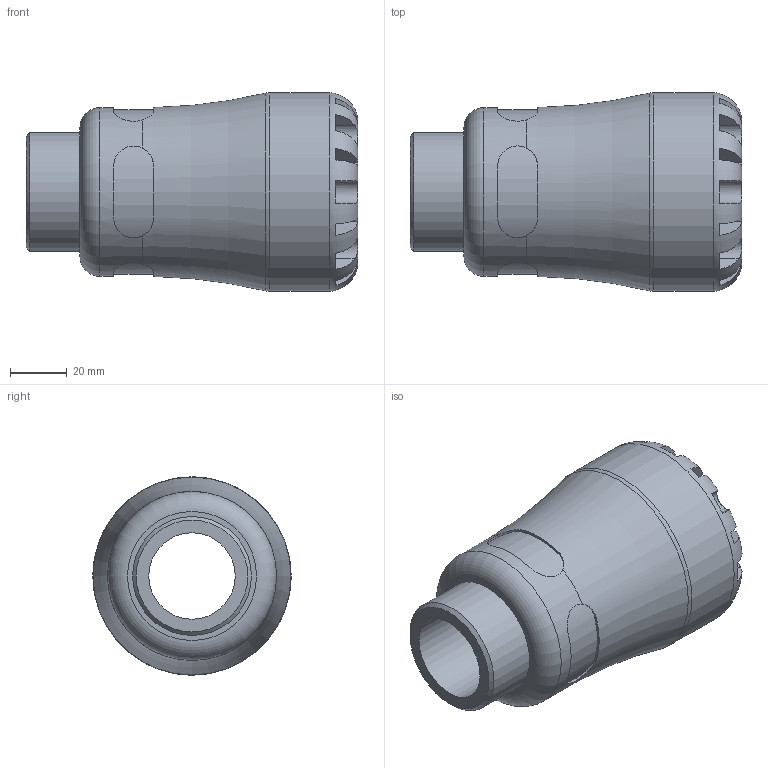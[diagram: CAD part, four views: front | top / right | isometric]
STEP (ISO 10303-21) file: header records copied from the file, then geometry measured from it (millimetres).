
FILE_DESCRIPTION(/* description */ ('PLASSON G-PLASS BRASS MALE ADAPTOR 40X 1 1/4" SERIES 1'),/* implementation_level */ '2;1');
FILE_NAME(/* name */ 'C:\Users\Kirill\Dropbox\99-16-3568-Processing\S1\157200\stp\157200040013.stp',/* time_stamp */ '2023-10-21T23:02:38+04:00',/* author */ ('KIM'),/* organization */ (''),/* preprocessor_version */ 'ST-DEVELOPER v17.2',/* originating_system */ 'Autodesk Inventor 2019',/* authorisation */ '');
FILE_SCHEMA (('AUTOMOTIVE_DESIGN { 1 0 10303 214 3 1 1 }'));
Length unit declared in the file: millimetre
Products named in the file (1): 157200040013
Bounding box: 117 x 70 x 70 mm (x, y, z)
Volume: 210099 mm3; surface area: 41525.5 mm2
Topology: 1 solids, 1 shells, 99 faces, 269 edges, 174 vertices
Faces by surface type: plane 60, cylinder 33, torus 4, cone 2
Full cylindrical faces by diameter (mm): 30.481 x1, 40 x1, 41.91 x1, 59.5 x1, 70 x1
Entity records: 4101 total; most frequent: CARTESIAN_POINT 1511, ORIENTED_EDGE 538, DIRECTION 507, EDGE_CURVE 269, AXIS2_PLACEMENT_3D 210, VERTEX_POINT 174, CIRCLE 110, EDGE_LOOP 103
